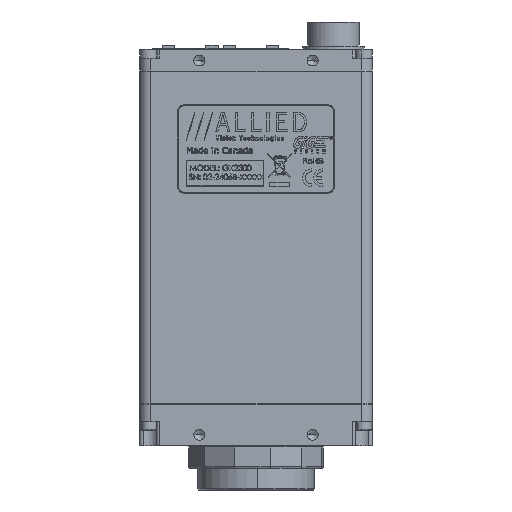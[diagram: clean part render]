
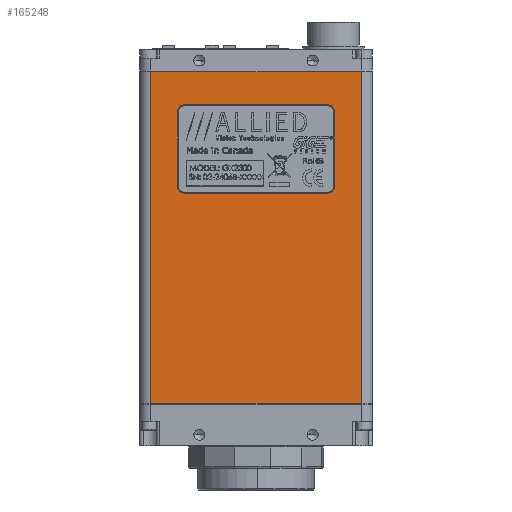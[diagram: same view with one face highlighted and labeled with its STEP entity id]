
A CAD part, front view. The second image highlights one B-rep face of the part: STEP entity #165248.
In plain terms, the highlighted planar face has unit normal (0, -1, 0).
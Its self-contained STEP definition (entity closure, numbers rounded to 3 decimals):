
#377 = ORIENTED_EDGE ( 'NONE', *, *, #163321, .T. ) ;
#853 = CARTESIAN_POINT ( 'NONE',  ( -16.447, -10.16, 11.748 ) ) ;
#7771 = VECTOR ( 'NONE', #85170, 1000. ) ;
#8379 = VERTEX_POINT ( 'NONE', #59053 ) ;
#17626 = DIRECTION ( 'NONE',  ( 1., 0., 0. ) ) ;
#20235 = CARTESIAN_POINT ( 'NONE',  ( 24.13, -10.16, -38.1 ) ) ;
#27957 = EDGE_CURVE ( 'NONE', #63219, #70725, #212466, .T. ) ;
#28012 = CARTESIAN_POINT ( 'NONE',  ( 18.034, -10.16, -92.399 ) ) ;
#29622 = ORIENTED_EDGE ( 'NONE', *, *, #205750, .T. ) ;
#31177 = AXIS2_PLACEMENT_3D ( 'NONE', #66552, #182899, #83283 ) ;
#35326 = ORIENTED_EDGE ( 'NONE', *, *, #196518, .T. ) ;
#37890 = VECTOR ( 'NONE', #187225, 1000. ) ;
#39367 = VECTOR ( 'NONE', #127572, 1000. ) ;
#44643 = FACE_OUTER_BOUND ( 'NONE', #64002, .T. ) ;
#46672 = VECTOR ( 'NONE', #153189, 1000. ) ;
#48703 = VERTEX_POINT ( 'NONE', #131402 ) ;
#48751 = VERTEX_POINT ( 'NONE', #150248 ) ;
#56766 = ORIENTED_EDGE ( 'NONE', *, *, #70060, .T. ) ;
#57173 = LINE ( 'NONE', #183312, #7771 ) ;
#58934 = EDGE_CURVE ( 'NONE', #138306, #48703, #87401, .T. ) ;
#59053 = CARTESIAN_POINT ( 'NONE',  ( 16.447, -10.16, 30.48 ) ) ;
#60874 = CARTESIAN_POINT ( 'NONE',  ( -24.13, -10.16, 38.1 ) ) ;
#62824 = CIRCLE ( 'NONE', #184566, 1.587 ) ;
#63069 = VERTEX_POINT ( 'NONE', #163188 ) ;
#63219 = VERTEX_POINT ( 'NONE', #86814 ) ;
#64002 = EDGE_LOOP ( 'NONE', ( #94026, #377, #215110, #89985 ) ) ;
#66552 = CARTESIAN_POINT ( 'NONE',  ( 24.13, -10.16, -92.399 ) ) ;
#66652 = VERTEX_POINT ( 'NONE', #201130 ) ;
#70060 = EDGE_CURVE ( 'NONE', #48703, #48751, #121176, .T. ) ;
#70725 = VERTEX_POINT ( 'NONE', #60874 ) ;
#71179 = DIRECTION ( 'NONE',  ( 0., 1., 0. ) ) ;
#71831 = CARTESIAN_POINT ( 'NONE',  ( 18.034, -10.16, 11.748 ) ) ;
#72087 = VECTOR ( 'NONE', #149257, 1000. ) ;
#76532 = CARTESIAN_POINT ( 'NONE',  ( 24.13, -10.16, 38.1 ) ) ;
#80371 = CARTESIAN_POINT ( 'NONE',  ( 16.447, -10.16, 10.16 ) ) ;
#82720 = CARTESIAN_POINT ( 'NONE',  ( -18.034, -10.16, -92.399 ) ) ;
#83283 = DIRECTION ( 'NONE',  ( 1., 0., 0. ) ) ;
#83749 = CIRCLE ( 'NONE', #151207, 1.587 ) ;
#84200 = LINE ( 'NONE', #186670, #172562 ) ;
#85170 = DIRECTION ( 'NONE',  ( 0., 0., -1. ) ) ;
#85891 = CARTESIAN_POINT ( 'NONE',  ( -16.447, -10.16, 28.893 ) ) ;
#86814 = CARTESIAN_POINT ( 'NONE',  ( 24.13, -10.16, 38.1 ) ) ;
#87292 = EDGE_CURVE ( 'NONE', #63069, #8379, #84200, .T. ) ;
#87401 = LINE ( 'NONE', #137022, #37890 ) ;
#89985 = ORIENTED_EDGE ( 'NONE', *, *, #180544, .T. ) ;
#90432 = CARTESIAN_POINT ( 'NONE',  ( 16.447, -10.16, 11.748 ) ) ;
#93348 = DIRECTION ( 'NONE',  ( -1., 0., 0. ) ) ;
#94026 = ORIENTED_EDGE ( 'NONE', *, *, #27957, .T. ) ;
#99378 = PLANE ( 'NONE',  #31177 ) ;
#102623 = DIRECTION ( 'NONE',  ( 1., 0., 0. ) ) ;
#107158 = DIRECTION ( 'NONE',  ( 1., 0., 0. ) ) ;
#107463 = CARTESIAN_POINT ( 'NONE',  ( 18.034, -10.16, 28.893 ) ) ;
#112016 = FACE_BOUND ( 'NONE', #149402, .T. ) ;
#113557 = VERTEX_POINT ( 'NONE', #71831 ) ;
#116143 = DIRECTION ( 'NONE',  ( 0., 0., 1. ) ) ;
#117165 = DIRECTION ( 'NONE',  ( 0., 1., 0. ) ) ;
#121176 = CIRCLE ( 'NONE', #204357, 1.587 ) ;
#122113 = AXIS2_PLACEMENT_3D ( 'NONE', #90432, #206720, #107158 ) ;
#122868 = VERTEX_POINT ( 'NONE', #107463 ) ;
#123963 = VECTOR ( 'NONE', #93348, 1000. ) ;
#127572 = DIRECTION ( 'NONE',  ( 0., 0., -1. ) ) ;
#131402 = CARTESIAN_POINT ( 'NONE',  ( -16.447, -10.16, 10.16 ) ) ;
#135744 = DIRECTION ( 'NONE',  ( 1., 0., 0. ) ) ;
#137022 = CARTESIAN_POINT ( 'NONE',  ( 24.13, -10.16, 10.16 ) ) ;
#138306 = VERTEX_POINT ( 'NONE', #80371 ) ;
#149257 = DIRECTION ( 'NONE',  ( 0., 0., 1. ) ) ;
#149402 = EDGE_LOOP ( 'NONE', ( #196367, #162622, #29622, #35326, #203164, #211920, #56766, #182955 ) ) ;
#150055 = EDGE_CURVE ( 'NONE', #48751, #184242, #167710, .T. ) ;
#150248 = CARTESIAN_POINT ( 'NONE',  ( -18.034, -10.16, 11.748 ) ) ;
#150726 = LINE ( 'NONE', #20235, #46672 ) ;
#151207 = AXIS2_PLACEMENT_3D ( 'NONE', #170704, #71179, #187503 ) ;
#153189 = DIRECTION ( 'NONE',  ( 1., 0., 0. ) ) ;
#153199 = EDGE_CURVE ( 'NONE', #66652, #159787, #150726, .T. ) ;
#159787 = VERTEX_POINT ( 'NONE', #178932 ) ;
#160482 = LINE ( 'NONE', #215447, #72087 ) ;
#162622 = ORIENTED_EDGE ( 'NONE', *, *, #87292, .T. ) ;
#163188 = CARTESIAN_POINT ( 'NONE',  ( -16.447, -10.16, 30.48 ) ) ;
#163321 = EDGE_CURVE ( 'NONE', #70725, #66652, #57173, .T. ) ;
#164964 = CARTESIAN_POINT ( 'NONE',  ( -18.034, -10.16, 28.893 ) ) ;
#165248 = ADVANCED_FACE ( 'NONE', ( #44643, #112016 ), #99378, .T. ) ;
#167710 = LINE ( 'NONE', #82720, #206758 ) ;
#170704 = CARTESIAN_POINT ( 'NONE',  ( 16.447, -10.16, 28.893 ) ) ;
#171981 = LINE ( 'NONE', #28012, #39367 ) ;
#172562 = VECTOR ( 'NONE', #135744, 1000. ) ;
#178091 = CIRCLE ( 'NONE', #122113, 1.587 ) ;
#178742 = EDGE_CURVE ( 'NONE', #113557, #138306, #178091, .T. ) ;
#178932 = CARTESIAN_POINT ( 'NONE',  ( 24.13, -10.16, -38.1 ) ) ;
#180544 = EDGE_CURVE ( 'NONE', #159787, #63219, #160482, .T. ) ;
#182899 = DIRECTION ( 'NONE',  ( 0., -1., 0. ) ) ;
#182955 = ORIENTED_EDGE ( 'NONE', *, *, #150055, .T. ) ;
#183312 = CARTESIAN_POINT ( 'NONE',  ( -24.13, -10.16, -92.399 ) ) ;
#184242 = VERTEX_POINT ( 'NONE', #164964 ) ;
#184566 = AXIS2_PLACEMENT_3D ( 'NONE', #85891, #202183, #102623 ) ;
#186670 = CARTESIAN_POINT ( 'NONE',  ( 24.13, -10.16, 30.48 ) ) ;
#187225 = DIRECTION ( 'NONE',  ( -1., 0., 0. ) ) ;
#187503 = DIRECTION ( 'NONE',  ( 1., 0., 0. ) ) ;
#188966 = EDGE_CURVE ( 'NONE', #184242, #63069, #62824, .T. ) ;
#196367 = ORIENTED_EDGE ( 'NONE', *, *, #188966, .T. ) ;
#196518 = EDGE_CURVE ( 'NONE', #122868, #113557, #171981, .T. ) ;
#201130 = CARTESIAN_POINT ( 'NONE',  ( -24.13, -10.16, -38.1 ) ) ;
#202183 = DIRECTION ( 'NONE',  ( 0., 1., 0. ) ) ;
#203164 = ORIENTED_EDGE ( 'NONE', *, *, #178742, .T. ) ;
#204357 = AXIS2_PLACEMENT_3D ( 'NONE', #853, #117165, #17626 ) ;
#205750 = EDGE_CURVE ( 'NONE', #8379, #122868, #83749, .T. ) ;
#206720 = DIRECTION ( 'NONE',  ( 0., 1., 0. ) ) ;
#206758 = VECTOR ( 'NONE', #116143, 1000. ) ;
#211920 = ORIENTED_EDGE ( 'NONE', *, *, #58934, .T. ) ;
#212466 = LINE ( 'NONE', #76532, #123963 ) ;
#215110 = ORIENTED_EDGE ( 'NONE', *, *, #153199, .T. ) ;
#215447 = CARTESIAN_POINT ( 'NONE',  ( 24.13, -10.16, -92.399 ) ) ;
